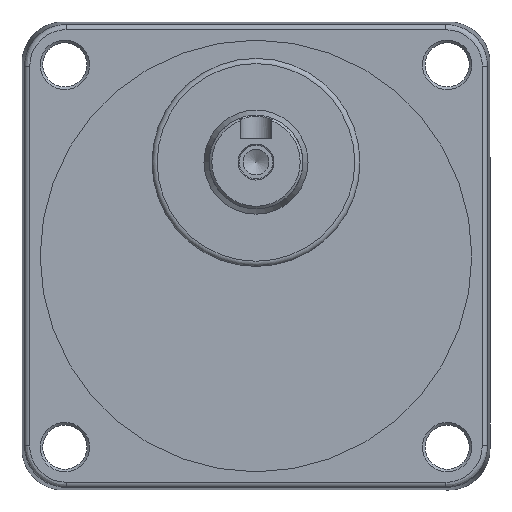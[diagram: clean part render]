
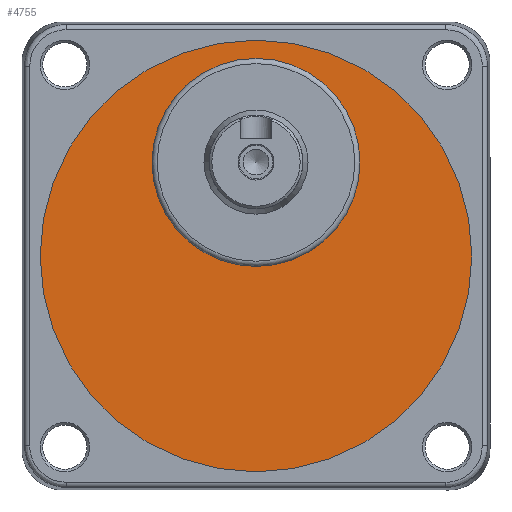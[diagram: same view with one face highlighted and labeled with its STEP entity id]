
A CAD part, front view. The second image highlights one B-rep face of the part: STEP entity #4755.
In plain terms, the highlighted planar face has unit normal (0, -1, 0).
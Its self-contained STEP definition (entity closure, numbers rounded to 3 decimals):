
#4094=CARTESIAN_POINT('',(20.0,-49.5,18.));
#4095=VERTEX_POINT('',#4094);
#4096=CARTESIAN_POINT('',(0.,-49.5,18.0));
#4097=DIRECTION('',(0.0,1.0,0.0));
#4098=DIRECTION('',(-1.0,0.0,0.0));
#4099=AXIS2_PLACEMENT_3D('',#4096,#4097,#4098);
#4100=CIRCLE('',#4099,20.0);
#4101=EDGE_CURVE('',#4095,#4095,#4100,.T.);
#4729=CARTESIAN_POINT('',(41.5,-49.5,0.));
#4730=VERTEX_POINT('',#4729);
#4731=CARTESIAN_POINT('',(0.0,-49.5,0.0));
#4732=DIRECTION('',(0.0,-1.0,0.0));
#4733=DIRECTION('',(-1.0,0.0,0.0));
#4734=AXIS2_PLACEMENT_3D('',#4731,#4732,#4733);
#4735=CIRCLE('',#4734,41.5);
#4736=EDGE_CURVE('',#4730,#4730,#4735,.T.);
#4744=CARTESIAN_POINT('',(0.0,-49.5,0.0));
#4745=DIRECTION('',(0.0,1.0,0.0));
#4746=DIRECTION('',(0.0,0.0,1.0));
#4747=AXIS2_PLACEMENT_3D('',#4744,#4745,#4746);
#4748=PLANE('',#4747);
#4749=ORIENTED_EDGE('',*,*,#4736,.T.);
#4750=EDGE_LOOP('',(#4749));
#4751=FACE_OUTER_BOUND('',#4750,.T.);
#4752=ORIENTED_EDGE('',*,*,#4101,.T.);
#4753=EDGE_LOOP('',(#4752));
#4754=FACE_BOUND('',#4753,.T.);
#4755=ADVANCED_FACE('',(#4751,#4754),#4748,.F.);
